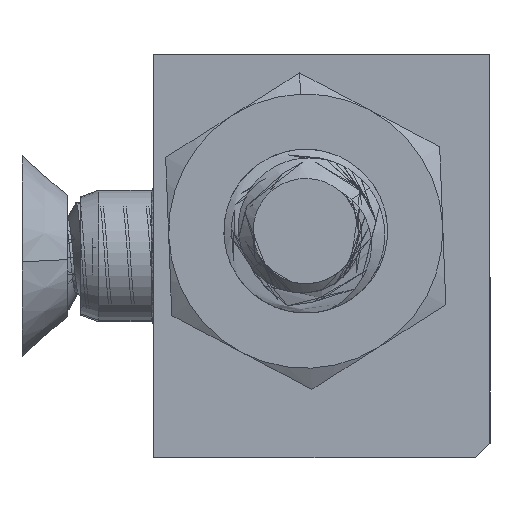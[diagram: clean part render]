
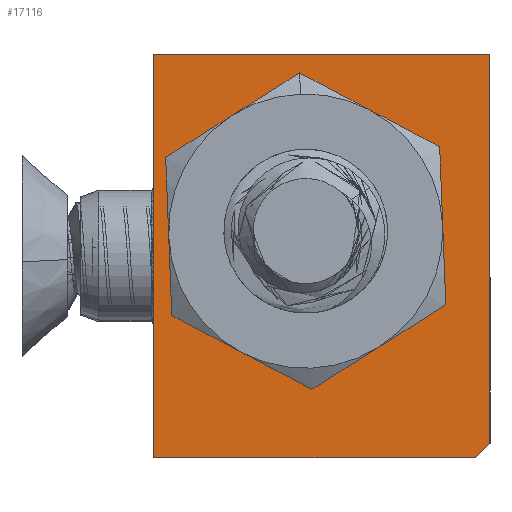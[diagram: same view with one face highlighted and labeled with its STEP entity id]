
A CAD part, front view. The second image highlights one B-rep face of the part: STEP entity #17116.
In plain terms, the highlighted planar face has unit normal (0, -1, 0) as drawn and (-1, 0, 0) by its records, which use the part's own axes.
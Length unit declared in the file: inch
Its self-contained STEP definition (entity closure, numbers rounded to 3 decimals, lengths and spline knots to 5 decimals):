
#191 = LINE ( 'NONE', #12683, #11365 ) ;
#461 = EDGE_CURVE ( 'NONE', #5018, #7750, #191, .T. ) ;
#724 = EDGE_LOOP ( 'NONE', ( #2659, #811 ) ) ;
#811 = ORIENTED_EDGE ( 'NONE', *, *, #11226, .F. ) ;
#817 = DIRECTION ( 'NONE',  ( 0., 0., -1. ) ) ;
#1324 = ORIENTED_EDGE ( 'NONE', *, *, #9242, .F. ) ;
#1778 = VECTOR ( 'NONE', #13897, 39.37008 ) ;
#1986 = VERTEX_POINT ( 'NONE', #16222 ) ;
#2085 = CARTESIAN_POINT ( 'NONE',  ( -0.32917, -0.2281, 0.115 ) ) ;
#2578 = CARTESIAN_POINT ( 'NONE',  ( -0.32917, 0.0381, -0.115 ) ) ;
#2592 = CARTESIAN_POINT ( 'NONE',  ( -0.32917, 0.0381, -0.115 ) ) ;
#2659 = ORIENTED_EDGE ( 'NONE', *, *, #3347, .F. ) ;
#2738 = ORIENTED_EDGE ( 'NONE', *, *, #12208, .T. ) ;
#2949 = DIRECTION ( 'NONE',  ( 0., 0., 1. ) ) ;
#3131 = CARTESIAN_POINT ( 'NONE',  ( -0.32917, -0.083, -0.011 ) ) ;
#3167 = ORIENTED_EDGE ( 'NONE', *, *, #461, .F. ) ;
#3347 = EDGE_CURVE ( 'NONE', #12164, #9203, #3406, .T. ) ;
#3406 = CIRCLE ( 'NONE', #7643, 0.06 ) ;
#3486 = CIRCLE ( 'NONE', #8007, 0.06 ) ;
#3500 = VECTOR ( 'NONE', #16202, 39.37008 ) ;
#3857 = DIRECTION ( 'NONE',  ( 0., 0., 1. ) ) ;
#3903 = CARTESIAN_POINT ( 'NONE',  ( -0.32917, -0.083, 0.049 ) ) ;
#4072 = VERTEX_POINT ( 'NONE', #12113 ) ;
#4228 = VERTEX_POINT ( 'NONE', #2085 ) ;
#4749 = LINE ( 'NONE', #14244, #1778 ) ;
#4871 = FACE_OUTER_BOUND ( 'NONE', #11961, .T. ) ;
#5018 = VERTEX_POINT ( 'NONE', #15144 ) ;
#5213 = LINE ( 'NONE', #10629, #17290 ) ;
#5580 = DIRECTION ( 'NONE',  ( 0., 1., 0. ) ) ;
#6122 = VECTOR ( 'NONE', #10654, 39.37008 ) ;
#7269 = DIRECTION ( 'NONE',  ( 1., 0., 0. ) ) ;
#7446 = FACE_BOUND ( 'NONE', #724, .T. ) ;
#7643 = AXIS2_PLACEMENT_3D ( 'NONE', #7741, #13158, #3857 ) ;
#7741 = CARTESIAN_POINT ( 'NONE',  ( -0.32917, -0.083, -0.011 ) ) ;
#7750 = VERTEX_POINT ( 'NONE', #2578 ) ;
#8007 = AXIS2_PLACEMENT_3D ( 'NONE', #3131, #12610, #2949 ) ;
#9062 = ORIENTED_EDGE ( 'NONE', *, *, #12533, .T. ) ;
#9203 = VERTEX_POINT ( 'NONE', #16129 ) ;
#9242 = EDGE_CURVE ( 'NONE', #1986, #5018, #9410, .T. ) ;
#9410 = LINE ( 'NONE', #16212, #6122 ) ;
#10558 = ORIENTED_EDGE ( 'NONE', *, *, #17348, .F. ) ;
#10629 = CARTESIAN_POINT ( 'NONE',  ( -0.32917, -0.2381, 0.115 ) ) ;
#10654 = DIRECTION ( 'NONE',  ( 0., 0., -1. ) ) ;
#11226 = EDGE_CURVE ( 'NONE', #9203, #12164, #3486, .T. ) ;
#11365 = VECTOR ( 'NONE', #5580, 39.37008 ) ;
#11690 = AXIS2_PLACEMENT_3D ( 'NONE', #16827, #7269, #817 ) ;
#11961 = EDGE_LOOP ( 'NONE', ( #1324, #9062, #2738, #10558, #3167 ) ) ;
#12113 = CARTESIAN_POINT ( 'NONE',  ( -0.32917, 0.0381, 0.115 ) ) ;
#12164 = VERTEX_POINT ( 'NONE', #3903 ) ;
#12208 = EDGE_CURVE ( 'NONE', #4228, #4072, #5213, .T. ) ;
#12533 = EDGE_CURVE ( 'NONE', #1986, #4228, #4749, .T. ) ;
#12610 = DIRECTION ( 'NONE',  ( -1., 0., 0. ) ) ;
#12683 = CARTESIAN_POINT ( 'NONE',  ( -0.32917, -0.2381, -0.115 ) ) ;
#13158 = DIRECTION ( 'NONE',  ( -1., 0., 0. ) ) ;
#13383 = DIRECTION ( 'NONE',  ( 0., 1., 0. ) ) ;
#13897 = DIRECTION ( 'NONE',  ( 0., 0.707, 0.707 ) ) ;
#14244 = CARTESIAN_POINT ( 'NONE',  ( -0.32917, -0.2281, 0.115 ) ) ;
#14279 = PLANE ( 'NONE',  #11690 ) ;
#14724 = LINE ( 'NONE', #2592, #3500 ) ;
#15144 = CARTESIAN_POINT ( 'NONE',  ( -0.32917, -0.2381, -0.115 ) ) ;
#16129 = CARTESIAN_POINT ( 'NONE',  ( -0.32917, -0.083, -0.071 ) ) ;
#16202 = DIRECTION ( 'NONE',  ( 0., 0., 1. ) ) ;
#16212 = CARTESIAN_POINT ( 'NONE',  ( -0.32917, -0.2381, 0.115 ) ) ;
#16222 = CARTESIAN_POINT ( 'NONE',  ( -0.32917, -0.2381, 0.105 ) ) ;
#16827 = CARTESIAN_POINT ( 'NONE',  ( -0.32917, -0.2381, 0.115 ) ) ;
#17116 = ADVANCED_FACE ( 'NONE', ( #4871, #7446 ), #14279, .F. ) ;
#17290 = VECTOR ( 'NONE', #13383, 39.37008 ) ;
#17348 = EDGE_CURVE ( 'NONE', #7750, #4072, #14724, .T. ) ;
